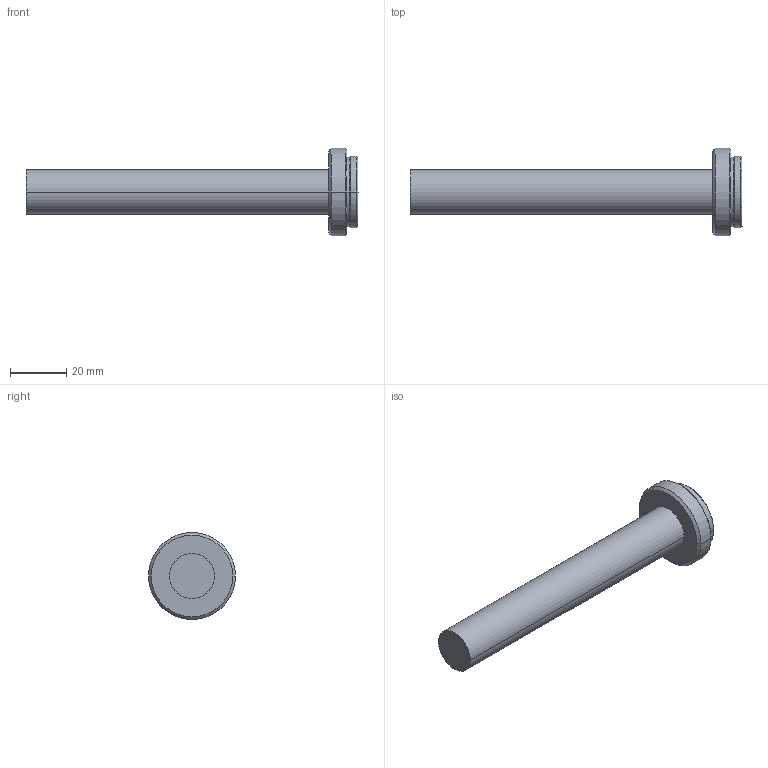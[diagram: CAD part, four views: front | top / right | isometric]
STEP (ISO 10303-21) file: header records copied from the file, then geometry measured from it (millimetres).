
FILE_DESCRIPTION (( 'STEP AP203' ), '1' );
FILE_NAME ('VS-TC6-110-LD.STEP', '2020-02-13T01:33:46', ( '' ), ( '' ), 'SwSTEP 2.0', 'SolidWorks 2017', '' );
FILE_SCHEMA (( 'CONFIG_CONTROL_DESIGN' ));
Length unit declared in the file: millimetre
Products named in the file (1): VS-TC6-110-LD
Bounding box: 118.2 x 31 x 31 mm (x, y, z)
Volume: 28483.6 mm3; surface area: 7810.8 mm2
Topology: 1 solids, 1 shells, 20 faces, 38 edges, 22 vertices
Faces by surface type: cylinder 8, cone 8, plane 4
Entity records: 581 total; most frequent: DIRECTION 102, CARTESIAN_POINT 81, ORIENTED_EDGE 76, AXIS2_PLACEMENT_3D 43, EDGE_CURVE 38, CIRCLE 22, VERTEX_POINT 22, EDGE_LOOP 22
